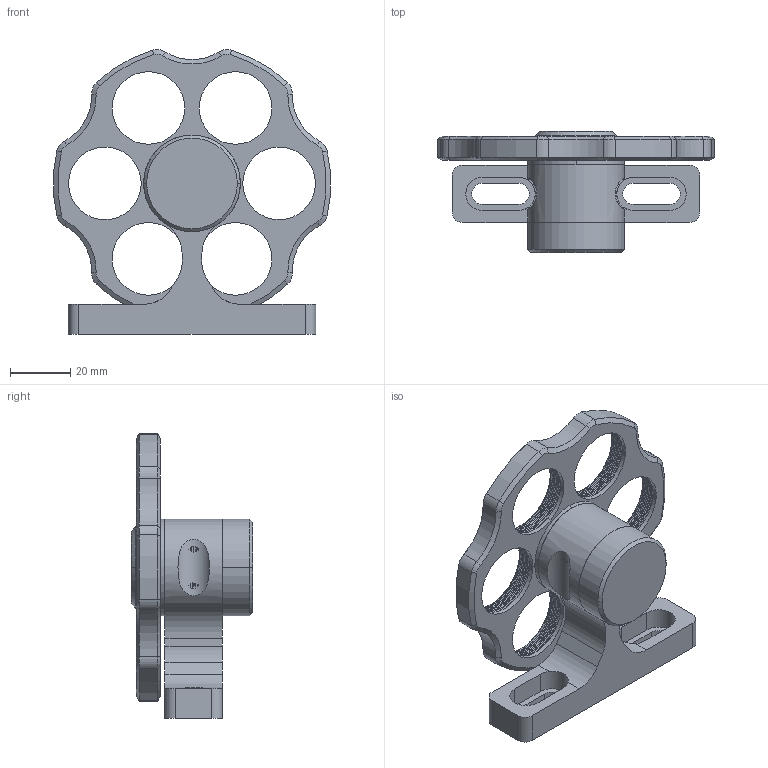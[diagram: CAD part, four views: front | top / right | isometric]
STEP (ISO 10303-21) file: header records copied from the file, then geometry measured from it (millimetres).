
FILE_DESCRIPTION((''),'2;1');
FILE_NAME('FWO-A1_ASM','2020-10-19T',('Administrator'),(''),'CREO PARAMETRIC BY PTC INC, 2015290','CREO PARAMETRIC BY PTC INC, 2015290','');
FILE_SCHEMA(('CONFIG_CONTROL_DESIGN'));
Products named in the file (8): FWO-A_A1; FWO-A_A2; M5X12_HSB; FWO-A_A3; FWO-A_A4; SPACER_14X1; FWO-A_A7; FWO-A1_ASM
Assembly tree (9 placements, depth 2):
  FWO-A1_ASM
    FWO-A_A1
    FWO-A_A2
    M5X12_HSB  x3
    FWO-A_A3
    FWO-A_A4
    SPACER_14X1
    FWO-A_A7
Bounding box: 91.71 x 40.1 x 94.31 mm (x, y, z)
Volume: 62177.2 mm3; surface area: 32898.3 mm2
Topology: 9 solids, 9 shells, 1094 faces, 2911 edges, 1861 vertices
Faces by surface type: cylinder 649, bspline 222, cone 122, plane 77, sphere 24
Entity records: 69924 total; most frequent: CARTESIAN_POINT 47670, ORIENTED_EDGE 5294, DIRECTION 3467, EDGE_CURVE 2647, VERTEX_POINT 1695, AXIS2_PLACEMENT_3D 1261, B_SPLINE_CURVE_WITH_KNOTS 1254, EDGE_LOOP 1066
